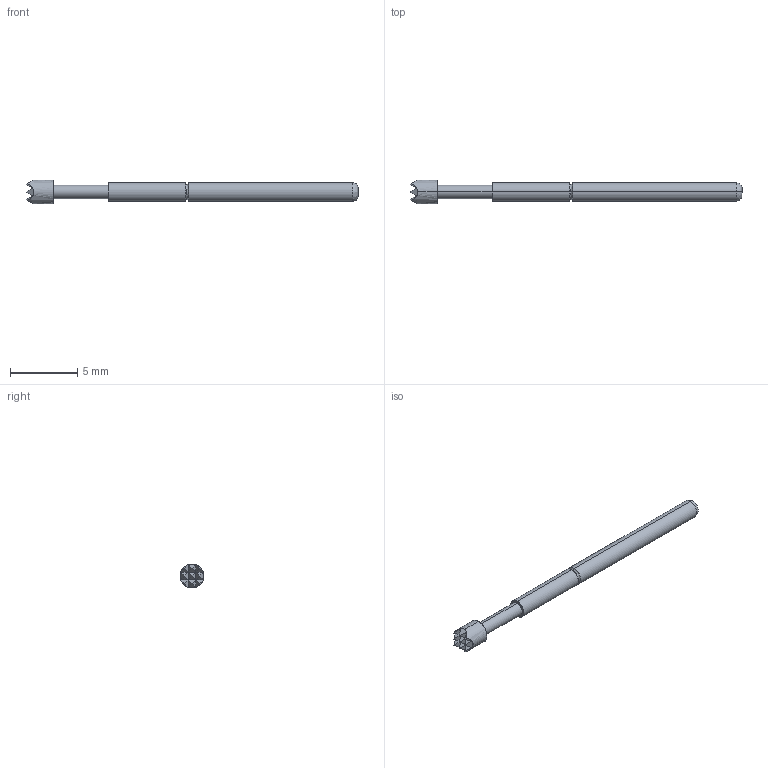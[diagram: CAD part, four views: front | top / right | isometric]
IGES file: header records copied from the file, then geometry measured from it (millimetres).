
Start section: SolidWorks IGES file using analytic representation for surfaces
Global section: file name: O:\PYLON\IGES FILES\P3158\P3158G-1W1S.IGS; native system: SolidWorks 2015; preprocessor: SolidWorks 2015; author: kgolden; date: 171020.072557; units: inch
Bounding box: 24.64 x 1.78 x 1.78 mm (x, y, z)
Surface area: 115.4 mm2 (no closed solid volume)
Topology: 0 solids, 0 shells, 47 faces, 302 edges, 302 vertices
Faces by surface type: bspline 37, revolution 10
